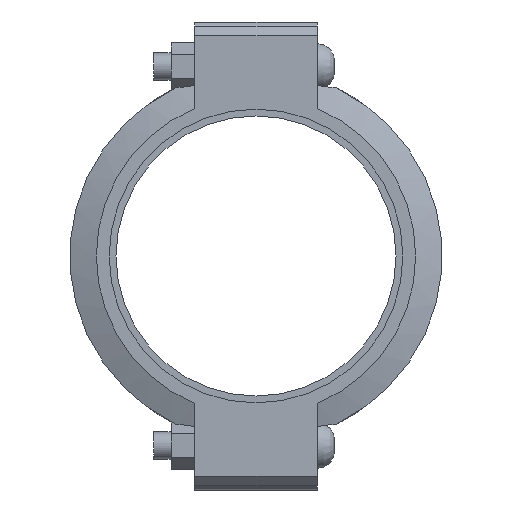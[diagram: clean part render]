
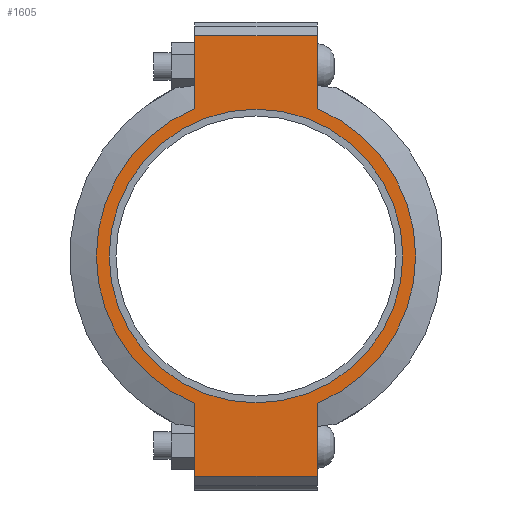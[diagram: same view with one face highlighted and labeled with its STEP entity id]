
A CAD part, left-side view. The second image highlights one B-rep face of the part: STEP entity #1605.
In plain terms, the highlighted planar face has unit normal (-1, 0, 0) as drawn and (0, 0, 1) by its records, which use the part's own axes.
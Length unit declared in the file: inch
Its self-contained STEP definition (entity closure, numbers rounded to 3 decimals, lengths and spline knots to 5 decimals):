
#176=LINE('',#2773,#265);
#187=LINE('',#2824,#276);
#193=LINE('',#2850,#282);
#195=LINE('',#2853,#284);
#196=LINE('',#2858,#285);
#197=LINE('',#2859,#286);
#265=VECTOR('',#2261,0.3937);
#276=VECTOR('',#2292,0.3937);
#282=VECTOR('',#2310,0.3937);
#284=VECTOR('',#2314,0.3937);
#285=VECTOR('',#2319,0.3937);
#286=VECTOR('',#2320,0.3937);
#348=FACE_BOUND('',#525,.T.);
#416=FACE_OUTER_BOUND('',#524,.T.);
#524=EDGE_LOOP('',(#1300,#1301,#1302,#1303,#1304,#1305,#1306,#1307));
#525=EDGE_LOOP('',(#1308));
#607=CIRCLE('',#1833,5.375);
#631=CIRCLE('',#1885,5.845);
#632=CIRCLE('',#1886,5.845);
#703=VERTEX_POINT('',#2599);
#744=VERTEX_POINT('',#2770);
#745=VERTEX_POINT('',#2772);
#762=VERTEX_POINT('',#2819);
#763=VERTEX_POINT('',#2823);
#770=VERTEX_POINT('',#2845);
#771=VERTEX_POINT('',#2849);
#772=VERTEX_POINT('',#2855);
#773=VERTEX_POINT('',#2857);
#867=EDGE_CURVE('',#703,#703,#607,.T.);
#924=EDGE_CURVE('',#745,#744,#176,.T.);
#945=EDGE_CURVE('',#763,#762,#187,.T.);
#956=EDGE_CURVE('',#771,#770,#193,.T.);
#958=EDGE_CURVE('',#771,#744,#195,.T.);
#959=EDGE_CURVE('',#770,#772,#631,.T.);
#960=EDGE_CURVE('',#772,#773,#196,.T.);
#961=EDGE_CURVE('',#763,#773,#197,.T.);
#962=EDGE_CURVE('',#762,#745,#632,.T.);
#1300=ORIENTED_EDGE('',*,*,#958,.F.);
#1301=ORIENTED_EDGE('',*,*,#956,.T.);
#1302=ORIENTED_EDGE('',*,*,#959,.T.);
#1303=ORIENTED_EDGE('',*,*,#960,.T.);
#1304=ORIENTED_EDGE('',*,*,#961,.F.);
#1305=ORIENTED_EDGE('',*,*,#945,.T.);
#1306=ORIENTED_EDGE('',*,*,#962,.T.);
#1307=ORIENTED_EDGE('',*,*,#924,.T.);
#1308=ORIENTED_EDGE('',*,*,#867,.T.);
#1445=PLANE('',#1884);
#1605=ADVANCED_FACE('',(#416,#348),#1445,.T.);
#1833=AXIS2_PLACEMENT_3D('',#2601,#2151,#2152);
#1884=AXIS2_PLACEMENT_3D('',#2854,#2315,#2316);
#1885=AXIS2_PLACEMENT_3D('',#2856,#2317,#2318);
#1886=AXIS2_PLACEMENT_3D('',#2860,#2321,#2322);
#2151=DIRECTION('center_axis',(0.,0.,-1.));
#2152=DIRECTION('ref_axis',(-1.,0.,0.));
#2261=DIRECTION('',(-1.,0.,0.));
#2292=DIRECTION('',(-1.,0.,0.));
#2310=DIRECTION('',(1.,0.,0.));
#2314=DIRECTION('',(0.,1.,0.));
#2315=DIRECTION('center_axis',(0.,0.,1.));
#2316=DIRECTION('ref_axis',(1.,0.,0.));
#2317=DIRECTION('center_axis',(0.,0.,1.));
#2318=DIRECTION('ref_axis',(-1.,0.,0.));
#2319=DIRECTION('',(1.,0.,0.));
#2320=DIRECTION('',(0.,-1.,0.));
#2321=DIRECTION('center_axis',(0.,0.,1.));
#2322=DIRECTION('ref_axis',(-1.,0.,0.));
#2599=CARTESIAN_POINT('',(5.375,0.,1.315));
#2601=CARTESIAN_POINT('Origin',(0.,0.,1.315));
#2770=CARTESIAN_POINT('',(-8.065,2.25,1.315));
#2772=CARTESIAN_POINT('',(-5.39458,2.25,1.315));
#2773=CARTESIAN_POINT('',(8.565,2.25,1.315));
#2819=CARTESIAN_POINT('',(5.39458,2.25,1.315));
#2823=CARTESIAN_POINT('',(8.065,2.25,1.315));
#2824=CARTESIAN_POINT('',(8.565,2.25,1.315));
#2845=CARTESIAN_POINT('',(-5.39458,-2.25,1.315));
#2849=CARTESIAN_POINT('',(-8.065,-2.25,1.315));
#2850=CARTESIAN_POINT('',(-8.565,-2.25,1.315));
#2853=CARTESIAN_POINT('',(-8.065,1.125,1.315));
#2854=CARTESIAN_POINT('Origin',(0.,0.,
1.315));
#2855=CARTESIAN_POINT('',(5.39458,-2.25,1.315));
#2856=CARTESIAN_POINT('Origin',(0.,0.,1.315));
#2857=CARTESIAN_POINT('',(8.065,-2.25,1.315));
#2858=CARTESIAN_POINT('',(-8.565,-2.25,1.315));
#2859=CARTESIAN_POINT('',(8.065,-1.125,1.315));
#2860=CARTESIAN_POINT('Origin',(0.,0.,1.315));
